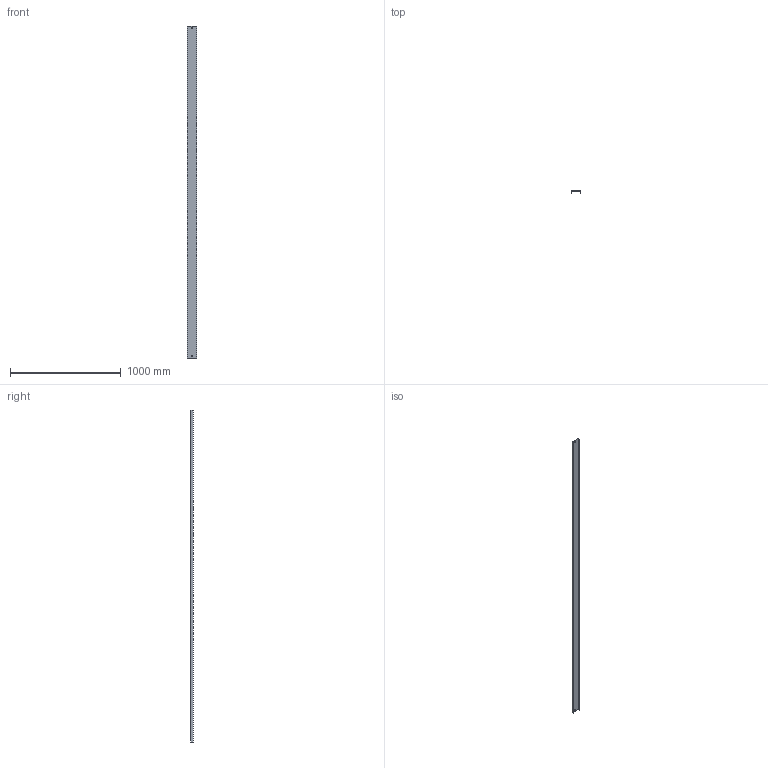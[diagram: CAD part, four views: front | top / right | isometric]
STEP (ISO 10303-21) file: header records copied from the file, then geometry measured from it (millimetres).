
FILE_DESCRIPTION (( 'STEP AP214' ), '1' );
FILE_NAME ('05N3R075.step', '2025-02-21T09:59:10', ( '' ), ( '' ), 'SwSTEP 2.0', 'SolidWorks 2023', '' );
FILE_SCHEMA (( 'AUTOMOTIVE_DESIGN' ));
Length unit declared in the file: millimetre
Products named in the file (1): 05N3R075
Bounding box: 82 x 20 x 3000 mm (x, y, z)
Volume: 535324.5 mm3; surface area: 723216 mm2
Topology: 1 solids, 1 shells, 18 faces, 48 edges, 32 vertices
Faces by surface type: plane 18
Entity records: 583 total; most frequent: CARTESIAN_POINT 99, ORIENTED_EDGE 96, DIRECTION 86, VECTOR 48, EDGE_CURVE 48, LINE 48, VERTEX_POINT 32, EDGE_LOOP 22
